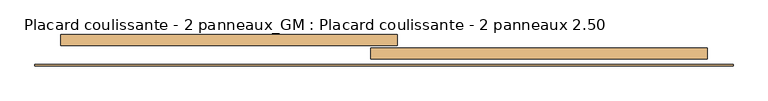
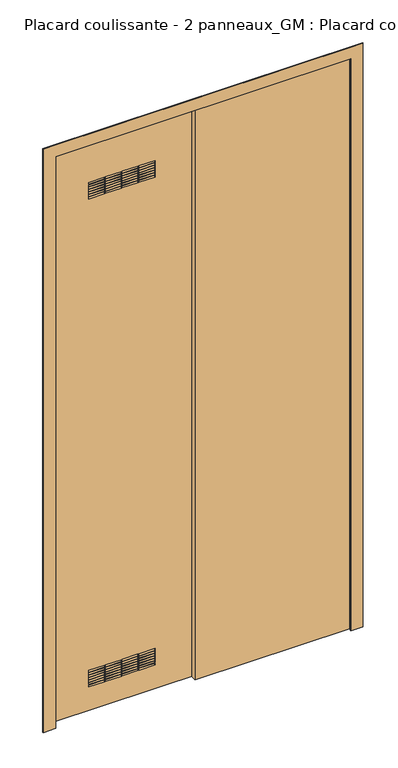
"""IFC4 building model written with IfcOpenShell, lengths in millimetres: door geometry, Placard coulissante - 2 panneaux_GM : Placard coulissante - 2 panneaux 2.50."""

from ifc_helpers import new_model, si_unit, frame, origin, origin_with_axes, place, context, project, spatial, polyline, outline, extrude, source, transform, mapped, element, save


def placard_coulissante_2_panneaux_gm_placard_coulissante_2_9463e5a0(model_context):
    return source(origin(), model_context, "Body", "SweptSolid", [
        extrude(outline(polyline([(0.0, -648.0), (0.0, -598.0), (2448.0, -598.0), (2448.0, 598.0), (0.0, 598.0), (0.0, 648.0), (2498.0, 648.0), (2498.0, -648.0), (0.0, -648.0)])), frame((0.0, -38.0, 0.0), z_axis=(0.0, 1.0, 0.0), x_axis=(0.0, 0.0, 1.0)), (0.0, 0.0, 1.0), 3.0),
        extrude(outline(polyline([(600.0, -25.0), (-25.0, -25.0), (-25.0, -5.0), (600.0, -5.0), (600.0, -25.0)])), origin_with_axes(), (0.0, 0.0, 1.0), 2450.0),
        extrude(outline(polyline([(2450.0, 25.0), (2450.0, -600.0), (0.0, -600.0), (0.0, 25.0), (2450.0, 25.0)]), holes=[polyline([(2252.4108443, -172.4062005), (2252.4108443, -237.4062005), (2259.9108443, -237.4062005), (2259.9108443, -172.4062005), (2252.4108443, -172.4062005)]), polyline([(2241.9108443, -172.4062005), (2241.9108443, -237.4062005), (2249.4108443, -237.4062005), (2249.4108443, -172.4062005), (2241.9108443, -172.4062005)]), polyline([(2231.4108443, -172.4062005), (2231.4108443, -237.4062005), (2238.9108443, -237.4062005), (2238.9108443, -172.4062005), (2231.4108443, -172.4062005)]), polyline([(2220.9108443, -172.4062005), (2220.9108443, -237.4062005), (2228.4108443, -237.4062005), (2228.4108443, -172.4062005), (2220.9108443, -172.4062005)]), polyline([(2210.4108443, -172.4062005), (2210.4108443, -237.4062005), (2217.9108443, -237.4062005), (2217.9108443, -172.4062005), (2210.4108443, -172.4062005)]), polyline([(2199.9108443, -172.4062005), (2199.9108443, -237.4062005), (2207.4108443, -237.4062005), (2207.4108443, -172.4062005), (2199.9108443, -172.4062005)]), polyline([(2189.4108443, -172.4062005), (2189.4108443, -237.4062005), (2196.9108443, -237.4062005), (2196.9108443, -172.4062005), (2189.4108443, -172.4062005)]), polyline([(2252.4108443, -240.4062005), (2252.4108443, -305.4062005), (2259.9108443, -305.4062005), (2259.9108443, -240.4062005), (2252.4108443, -240.4062005)]), polyline([(2241.9108443, -240.4062005), (2241.9108443, -305.4062005), (2249.4108443, -305.4062005), (2249.4108443, -240.4062005), (2241.9108443, -240.4062005)]), polyline([(2231.4108443, -240.4062005), (2231.4108443, -305.4062005), (2238.9108443, -305.4062005), (2238.9108443, -240.4062005), (2231.4108443, -240.4062005)]), polyline([(2220.9108443, -240.4062005), (2220.9108443, -305.4062005), (2228.4108443, -305.4062005), (2228.4108443, -240.4062005), (2220.9108443, -240.4062005)]), polyline([(2210.4108443, -240.4062005), (2210.4108443, -305.4062005), (2217.9108443, -305.4062005), (2217.9108443, -240.4062005), (2210.4108443, -240.4062005)]), polyline([(2199.9108443, -240.4062005), (2199.9108443, -305.4062005), (2207.4108443, -305.4062005), (2207.4108443, -240.4062005), (2199.9108443, -240.4062005)]), polyline([(2189.4108443, -240.4062005), (2189.4108443, -305.4062005), (2196.9108443, -305.4062005), (2196.9108443, -240.4062005), (2189.4108443, -240.4062005)]), polyline([(2252.4108443, -308.4062005), (2252.4108443, -373.4062005), (2259.9108443, -373.4062005), (2259.9108443, -308.4062005), (2252.4108443, -308.4062005)]), polyline([(2241.9108443, -308.4062005), (2241.9108443, -373.4062005), (2249.4108443, -373.4062005), (2249.4108443, -308.4062005), (2241.9108443, -308.4062005)]), polyline([(2231.4108443, -308.4062005), (2231.4108443, -373.4062005), (2238.9108443, -373.4062005), (2238.9108443, -308.4062005), (2231.4108443, -308.4062005)]), polyline([(2220.9108443, -308.4062005), (2220.9108443, -373.4062005), (2228.4108443, -373.4062005), (2228.4108443, -308.4062005), (2220.9108443, -308.4062005)]), polyline([(2210.4108443, -308.4062005), (2210.4108443, -373.4062005), (2217.9108443, -373.4062005), (2217.9108443, -308.4062005), (2210.4108443, -308.4062005)]), polyline([(2199.9108443, -308.4062005), (2199.9108443, -373.4062005), (2207.4108443, -373.4062005), (2207.4108443, -308.4062005), (2199.9108443, -308.4062005)]), polyline([(2189.4108443, -308.4062005), (2189.4108443, -373.4062005), (2196.9108443, -373.4062005), (2196.9108443, -308.4062005), (2189.4108443, -308.4062005)]), polyline([(2252.4108443, -376.4062005), (2252.4108443, -441.4062005), (2259.9108443, -441.4062005), (2259.9108443, -376.4062005), (2252.4108443, -376.4062005)]), polyline([(2241.9108443, -376.4062005), (2241.9108443, -441.4062005), (2249.4108443, -441.4062005), (2249.4108443, -376.4062005), (2241.9108443, -376.4062005)]), polyline([(2231.4108443, -376.4062005), (2231.4108443, -441.4062005), (2238.9108443, -441.4062005), (2238.9108443, -376.4062005), (2231.4108443, -376.4062005)]), polyline([(2220.9108443, -376.4062005), (2220.9108443, -441.4062005), (2228.4108443, -441.4062005), (2228.4108443, -376.4062005), (2220.9108443, -376.4062005)]), polyline([(2210.4108443, -376.4062005), (2210.4108443, -441.4062005), (2217.9108443, -441.4062005), (2217.9108443, -376.4062005), (2210.4108443, -376.4062005)]), polyline([(2199.9108443, -376.4062005), (2199.9108443, -441.4062005), (2207.4108443, -441.4062005), (2207.4108443, -376.4062005), (2199.9108443, -376.4062005)]), polyline([(2189.4108443, -376.4062005), (2189.4108443, -441.4062005), (2196.9108443, -441.4062005), (2196.9108443, -376.4062005), (2189.4108443, -376.4062005)]), polyline([(163.0, -172.4062005), (163.0, -237.4062005), (170.5, -237.4062005), (170.5, -172.4062005), (163.0, -172.4062005)]), polyline([(152.5, -172.4062005), (152.5, -237.4062005), (160.0, -237.4062005), (160.0, -172.4062005), (152.5, -172.4062005)]), polyline([(142.0, -172.4062005), (142.0, -237.4062005), (149.5, -237.4062005), (149.5, -172.4062005), (142.0, -172.4062005)]), polyline([(131.5, -172.4062005), (131.5, -237.4062005), (139.0, -237.4062005), (139.0, -172.4062005), (131.5, -172.4062005)]), polyline([(121.0, -172.4062005), (121.0, -237.4062005), (128.5, -237.4062005), (128.5, -172.4062005), (121.0, -172.4062005)]), polyline([(110.5, -172.4062005), (110.5, -237.4062005), (118.0, -237.4062005), (118.0, -172.4062005), (110.5, -172.4062005)]), polyline([(100.0, -172.3216595), (100.0, -237.4062005), (107.5, -237.4062005), (107.5, -172.3216595), (100.0, -172.3216595)]), polyline([(163.0, -240.4062005), (163.0, -305.4062005), (170.5, -305.4062005), (170.5, -240.4062005), (163.0, -240.4062005)]), polyline([(152.5, -240.4062005), (152.5, -305.4062005), (160.0, -305.4062005), (160.0, -240.4062005), (152.5, -240.4062005)]), polyline([(142.0, -240.4062005), (142.0, -305.4062005), (149.5, -305.4062005), (149.5, -240.4062005), (142.0, -240.4062005)]), polyline([(131.5, -240.4062005), (131.5, -305.4062005), (139.0, -305.4062005), (139.0, -240.4062005), (131.5, -240.4062005)]), polyline([(121.0, -240.4062005), (121.0, -305.4062005), (128.5, -305.4062005), (128.5, -240.4062005), (121.0, -240.4062005)]), polyline([(110.5, -240.4062005), (110.5, -305.4062005), (118.0, -305.4062005), (118.0, -240.4062005), (110.5, -240.4062005)]), polyline([(100.0, -240.4062005), (100.0, -305.4062005), (107.5, -305.4062005), (107.5, -240.4062005), (100.0, -240.4062005)]), polyline([(163.0, -308.4062005), (163.0, -373.4062005), (170.5, -373.4062005), (170.5, -308.4062005), (163.0, -308.4062005)]), polyline([(152.5, -308.4062005), (152.5, -373.4062005), (160.0, -373.4062005), (160.0, -308.4062005), (152.5, -308.4062005)]), polyline([(142.0, -308.4062005), (142.0, -373.4062005), (149.5, -373.4062005), (149.5, -308.4062005), (142.0, -308.4062005)]), polyline([(131.5, -308.4062005), (131.5, -373.4062005), (139.0, -373.4062005), (139.0, -308.4062005), (131.5, -308.4062005)]), polyline([(121.0, -308.4062005), (121.0, -373.4062005), (128.5, -373.4062005), (128.5, -308.4062005), (121.0, -308.4062005)]), polyline([(110.5, -308.4062005), (110.5, -373.4062005), (118.0, -373.4062005), (118.0, -308.4062005), (110.5, -308.4062005)]), polyline([(100.0, -308.4062005), (100.0, -373.4062005), (107.5, -373.4062005), (107.5, -308.4062005), (100.0, -308.4062005)]), polyline([(163.0, -376.4062005), (163.0, -441.4062005), (170.5, -441.4062005), (170.5, -376.4062005), (163.0, -376.4062005)]), polyline([(152.5, -376.4062005), (152.5, -441.4062005), (160.0, -441.4062005), (160.0, -376.4062005), (152.5, -376.4062005)]), polyline([(142.0, -376.4062005), (142.0, -441.4062005), (149.5, -441.4062005), (149.5, -376.4062005), (142.0, -376.4062005)]), polyline([(131.5, -376.4062005), (131.5, -441.4062005), (139.0, -441.4062005), (139.0, -376.4062005), (131.5, -376.4062005)]), polyline([(121.0, -376.4062005), (121.0, -441.4062005), (128.5, -441.4062005), (128.5, -376.4062005), (121.0, -376.4062005)]), polyline([(110.5, -376.4062005), (110.5, -441.4062005), (118.0, -441.4062005), (118.0, -376.4062005), (110.5, -376.4062005)]), polyline([(100.0, -376.4062005), (100.0, -441.4062005), (107.5, -441.4062005), (107.5, -376.4062005), (100.0, -376.4062005)])]), frame((0.0, 0.0, 0.0), z_axis=(0.0, 1.0, 0.0), x_axis=(0.0, 0.0, 1.0)), (0.0, 0.0, 1.0), 20.0),
    ])


if __name__ == "__main__":
    model = new_model("IFC4")
    model_context = context("Model", 3, world=origin())
    ifc_project = project(units=[si_unit("LENGTHUNIT", "METRE", prefix="MILLI")], contexts=[model_context])
    site = spatial("IfcSite", under=ifc_project)
    building = spatial("IfcBuilding", under=site)
    placement = place(None, origin())
    placard_coulissante_2_panneaux_gm_placard_coulissante_2_shape = placard_coulissante_2_panneaux_gm_placard_coulissante_2_9463e5a0(model_context)
    element("IfcDoor", 1, ObjectType="Placard coulissante - 2 panneaux_GM : Placard coulissante - 2 panneaux 2.50", at=placement, inside=building, context=model_context, shape_type="MappedRepresentation", body=[
        mapped(placard_coulissante_2_panneaux_gm_placard_coulissante_2_shape, transform((0.0, 0.0, 0.0), x_axis=(1.0, 0.0, 0.0), y_axis=(0.0, 1.0, 0.0), z_axis=(0.0, 0.0, 1.0))),
    ])
    save(model, "model.ifc")
